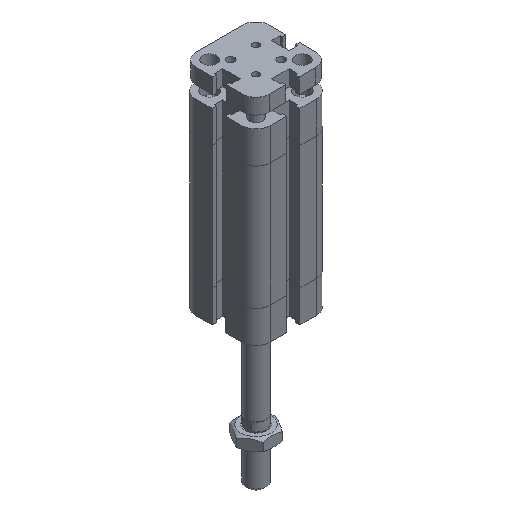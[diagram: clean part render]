
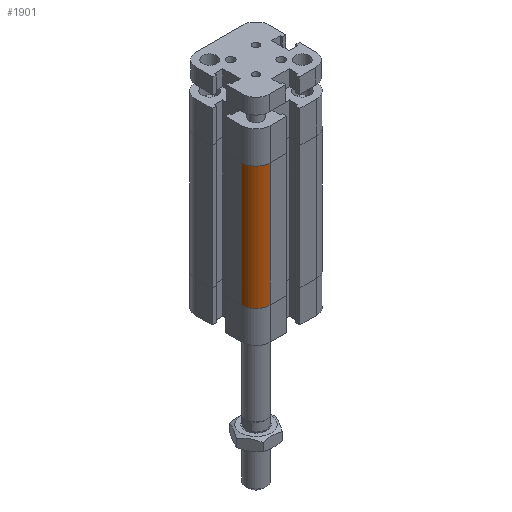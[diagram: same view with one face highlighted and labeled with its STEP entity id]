
A CAD part, isometric view. The second image highlights one B-rep face of the part: STEP entity #1901.
In plain terms, the highlighted cylindrical face has radius 5.5 mm (diameter 11 mm), a partial arc.
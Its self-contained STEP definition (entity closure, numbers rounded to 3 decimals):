
#1812=CARTESIAN_POINT('',(-14.5,-9.,12.5));
#1813=VERTEX_POINT('',#1812);
#1820=CARTESIAN_POINT('',(-14.5,-9.,60.5));
#1821=VERTEX_POINT('',#1820);
#1822=CARTESIAN_POINT('',(-14.5,-9.,12.5));
#1823=DIRECTION('',(0.0,0.0,1.0));
#1824=VECTOR('',#1823,48.);
#1825=LINE('',#1822,#1824);
#1826=EDGE_CURVE('',#1813,#1821,#1825,.T.);
#1869=CARTESIAN_POINT('',(-9.,-9.,0.0));
#1870=DIRECTION('',(0.0,0.0,1.0));
#1871=DIRECTION('',(1.0,0.0,0.0));
#1872=AXIS2_PLACEMENT_3D('',#1869,#1870,#1871);
#1873=CYLINDRICAL_SURFACE('',#1872,5.5);
#1874=CARTESIAN_POINT('',(-9.,-14.5,12.5));
#1875=VERTEX_POINT('',#1874);
#1876=CARTESIAN_POINT('',(-9.,-9.,12.5));
#1877=DIRECTION('',(0.0,0.0,1.0));
#1878=DIRECTION('',(1.0,0.0,0.0));
#1879=AXIS2_PLACEMENT_3D('',#1876,#1877,#1878);
#1880=CIRCLE('',#1879,5.5);
#1881=EDGE_CURVE('',#1813,#1875,#1880,.T.);
#1882=ORIENTED_EDGE('',*,*,#1881,.T.);
#1883=CARTESIAN_POINT('',(-9.,-14.5,60.5));
#1884=VERTEX_POINT('',#1883);
#1885=CARTESIAN_POINT('',(-9.,-14.5,12.5));
#1886=DIRECTION('',(0.0,0.0,1.0));
#1887=VECTOR('',#1886,48.);
#1888=LINE('',#1885,#1887);
#1889=EDGE_CURVE('',#1875,#1884,#1888,.T.);
#1890=ORIENTED_EDGE('',*,*,#1889,.T.);
#1891=CARTESIAN_POINT('',(-9.,-9.,60.5));
#1892=DIRECTION('',(0.0,0.0,1.0));
#1893=DIRECTION('',(1.0,0.0,0.0));
#1894=AXIS2_PLACEMENT_3D('',#1891,#1892,#1893);
#1895=CIRCLE('',#1894,5.5);
#1896=EDGE_CURVE('',#1821,#1884,#1895,.T.);
#1897=ORIENTED_EDGE('',*,*,#1896,.F.);
#1898=ORIENTED_EDGE('',*,*,#1826,.F.);
#1899=EDGE_LOOP('',(#1882,#1890,#1897,#1898));
#1900=FACE_OUTER_BOUND('',#1899,.T.);
#1901=ADVANCED_FACE('',(#1900),#1873,.T.);
